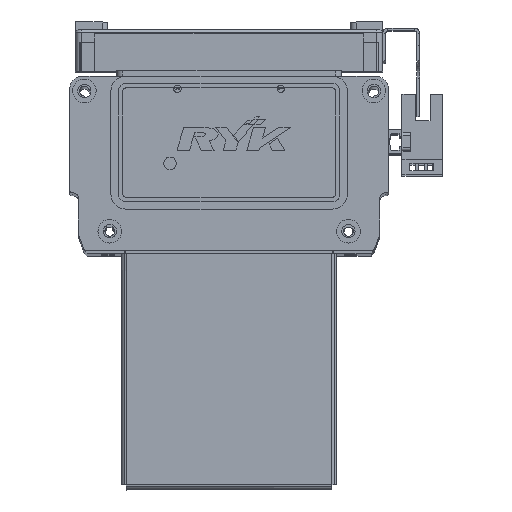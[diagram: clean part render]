
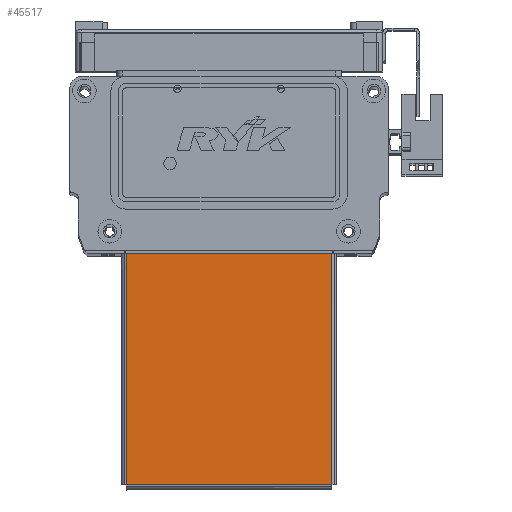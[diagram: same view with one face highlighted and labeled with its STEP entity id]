
A CAD part, top view. The second image highlights one B-rep face of the part: STEP entity #45517.
In plain terms, the highlighted planar face has unit normal (0, 0, 1) as drawn and (0, 1, 0) by its records, which use the part's own axes.
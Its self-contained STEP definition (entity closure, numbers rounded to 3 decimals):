
#2167 = EDGE_CURVE ( 'NONE', #49177, #49203, #22888, .T. ) ;
#2169 = EDGE_CURVE ( 'NONE', #49203, #49187, #22875, .T. ) ;
#2175 = EDGE_CURVE ( 'NONE', #46859, #49177, #22902, .T. ) ;
#2244 = EDGE_CURVE ( 'NONE', #49187, #46859, #22931, .T. ) ;
#4858 = EDGE_LOOP ( 'NONE', ( #8739, #8719, #8713, #8746 ) ) ;
#8713 = ORIENTED_EDGE ( 'NONE', *, *, #2169, .T. ) ;
#8719 = ORIENTED_EDGE ( 'NONE', *, *, #2167, .T. ) ;
#8739 = ORIENTED_EDGE ( 'NONE', *, *, #2175, .T. ) ;
#8746 = ORIENTED_EDGE ( 'NONE', *, *, #2244, .T. ) ;
#18110 = CARTESIAN_POINT ( 'NONE',  ( -34.763, 0., -39.5 ) ) ;
#18692 = CARTESIAN_POINT ( 'NONE',  ( -34.763, 0., 38.763 ) ) ;
#18736 = CARTESIAN_POINT ( 'NONE',  ( 34.763, 0., -39.5 ) ) ;
#18757 = CARTESIAN_POINT ( 'NONE',  ( 34.763, 0., 38.763 ) ) ;
#22236 = CARTESIAN_POINT ( 'NONE',  ( -34.793, 0., 38.763 ) ) ;
#22240 = DIRECTION ( 'NONE',  ( 1., 0., 0. ) ) ;
#22243 = CARTESIAN_POINT ( 'NONE',  ( -34.763, 0., -39.5 ) ) ;
#22246 = CARTESIAN_POINT ( 'NONE',  ( 34.763, 0., 38.793 ) ) ;
#22252 = DIRECTION ( 'NONE',  ( 0., 0., 1. ) ) ;
#22264 = DIRECTION ( 'NONE',  ( 0., 0., -1. ) ) ;
#22486 = DIRECTION ( 'NONE',  ( -1., 0., 0. ) ) ;
#22507 = CARTESIAN_POINT ( 'NONE',  ( -35.5, 0., -39.5 ) ) ;
#22875 = LINE ( 'NONE', #22246, #22904 ) ;
#22888 = LINE ( 'NONE', #22236, #22915 ) ;
#22902 = LINE ( 'NONE', #22243, #22903 ) ;
#22903 = VECTOR ( 'NONE', #22252, 1000. ) ;
#22904 = VECTOR ( 'NONE', #22264, 1000. ) ;
#22915 = VECTOR ( 'NONE', #22240, 1000. ) ;
#22931 = LINE ( 'NONE', #22507, #22973 ) ;
#22973 = VECTOR ( 'NONE', #22486, 1000. ) ;
#45517 = ADVANCED_FACE ( 'NONE', ( #55572 ), #53815, .T. ) ;
#46859 = VERTEX_POINT ( 'NONE', #18110 ) ;
#49177 = VERTEX_POINT ( 'NONE', #18692 ) ;
#49187 = VERTEX_POINT ( 'NONE', #18736 ) ;
#49203 = VERTEX_POINT ( 'NONE', #18757 ) ;
#53815 = PLANE ( 'NONE',  #54127 ) ;
#53836 = DIRECTION ( 'NONE',  ( 0., 0., 1. ) ) ;
#53850 = DIRECTION ( 'NONE',  ( 0., 1., 0. ) ) ;
#53859 = CARTESIAN_POINT ( 'NONE',  ( 0., 0., 0. ) ) ;
#54127 = AXIS2_PLACEMENT_3D ( 'NONE', #53859, #53850, #53836 ) ;
#55572 = FACE_OUTER_BOUND ( 'NONE', #4858, .T. ) ;
